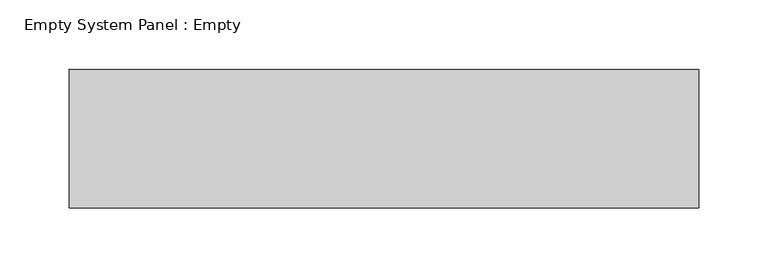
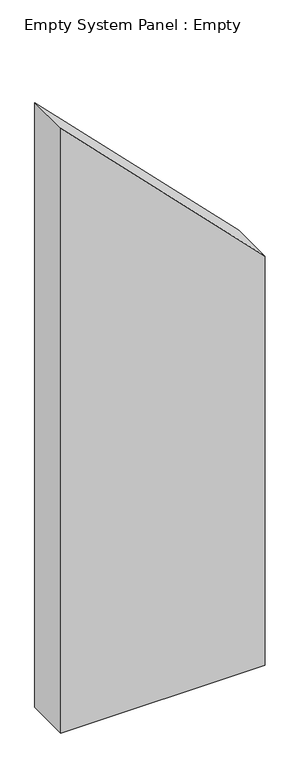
"""IFC4 building model written with IfcOpenShell, lengths in millimetres: plate geometry, Empty System Panel : Empty."""

from ifc_helpers import new_model, si_unit, frame, origin, place, context, project, spatial, polyline, outline, extrude, source, transform, mapped, element, save


def empty_system_panel_empty_e1abd0b2(model_context):
    return source(origin(), model_context, "Body", "SweptSolid", [
        extrude(outline(polyline([(0.0, -226.4404253), (0.0, 226.4404253), (960.1277301, 226.4404253), (1418.0751494, -226.4404253), (0.0, -226.4404253)])), frame((0.0, -50.0, 0.0), z_axis=(0.0, 1.0, 0.0), x_axis=(0.0, 0.0, 1.0)), (0.0, 0.0, 1.0), 100.0),
    ])


if __name__ == "__main__":
    model = new_model("IFC4")
    model_context = context("Model", 3, world=origin())
    ifc_project = project(units=[si_unit("LENGTHUNIT", "METRE", prefix="MILLI")], contexts=[model_context])
    site = spatial("IfcSite", under=ifc_project)
    building = spatial("IfcBuilding", under=site)
    placement = place(None, origin())
    empty_system_panel_empty_shape = empty_system_panel_empty_e1abd0b2(model_context)
    element("IfcPlate", 1, ObjectType="Empty System Panel : Empty", at=placement, inside=building, context=model_context, shape_type="MappedRepresentation", body=[
        mapped(empty_system_panel_empty_shape, transform((0.0, 0.0, 0.0), x_axis=(1.0, 0.0, 0.0), y_axis=(0.0, 1.0, 0.0), z_axis=(0.0, 0.0, 1.0))),
    ])
    save(model, "model.ifc")
